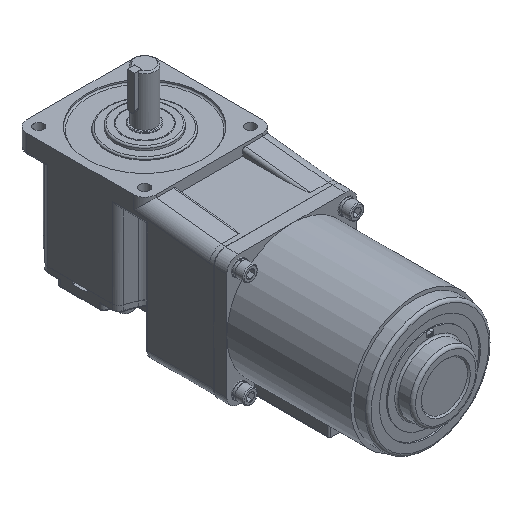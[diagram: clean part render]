
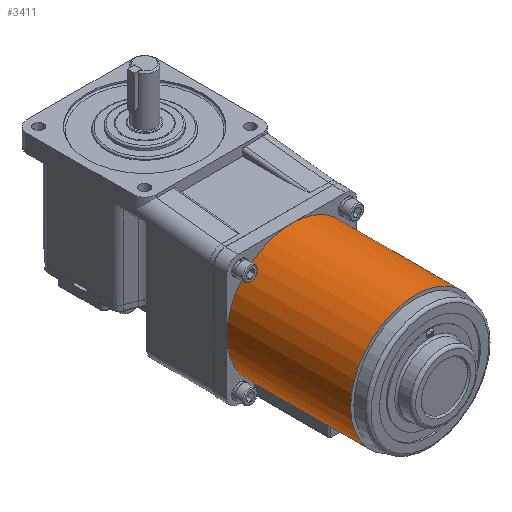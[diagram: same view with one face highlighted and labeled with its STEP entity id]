
A CAD part, isometric view. The second image highlights one B-rep face of the part: STEP entity #3411.
In plain terms, the highlighted cylindrical face has radius 45.2 mm (diameter 90.4 mm), a full revolution.
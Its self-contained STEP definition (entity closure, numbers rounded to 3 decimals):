
#670=LINE('',#14976,#1276);
#671=LINE('',#14993,#1277);
#1276=VECTOR('',#12082,1.);
#1277=VECTOR('',#12087,1.);
#1834=B_SPLINE_CURVE_WITH_KNOTS('',3,(#14978,#14979,#14980,#14981),
 .UNSPECIFIED.,.F.,.F.,(4,4),(0.,1.),.UNSPECIFIED.);
#1835=B_SPLINE_CURVE_WITH_KNOTS('',3,(#14986,#14987,#14988,#14989,#14990,
#14991),.UNSPECIFIED.,.F.,.F.,(4,2,4),(0.,0.5,1.),.UNSPECIFIED.);
#3156=CYLINDRICAL_SURFACE('',#10748,45.2);
#3411=ADVANCED_FACE('',(#4320,#4321),#3156,.T.);
#4320=FACE_BOUND('',#4664,.T.);
#4321=FACE_BOUND('',#4665,.T.);
#4664=EDGE_LOOP('',(#5601,#5602,#5603,#5604,#5605,#5606,#5607,#5608,#5609,
#5610));
#4665=EDGE_LOOP('',(#5611));
#5601=ORIENTED_EDGE('',*,*,#8785,.F.);
#5602=ORIENTED_EDGE('',*,*,#8786,.T.);
#5603=ORIENTED_EDGE('',*,*,#8787,.F.);
#5604=ORIENTED_EDGE('',*,*,#8788,.F.);
#5605=ORIENTED_EDGE('',*,*,#8789,.T.);
#5606=ORIENTED_EDGE('',*,*,#8790,.F.);
#5607=ORIENTED_EDGE('',*,*,#8770,.F.);
#5608=ORIENTED_EDGE('',*,*,#8769,.F.);
#5609=ORIENTED_EDGE('',*,*,#8767,.F.);
#5610=ORIENTED_EDGE('',*,*,#8776,.F.);
#5611=ORIENTED_EDGE('',*,*,#8782,.F.);
#7908=VERTEX_POINT('',#14911);
#7913=VERTEX_POINT('',#14923);
#7914=VERTEX_POINT('',#14927);
#7915=VERTEX_POINT('',#14933);
#7916=VERTEX_POINT('',#14937);
#7919=VERTEX_POINT('',#14946);
#7925=VERTEX_POINT('',#14967);
#7928=VERTEX_POINT('',#14977);
#7929=VERTEX_POINT('',#14982);
#7930=VERTEX_POINT('',#14985);
#7931=VERTEX_POINT('',#14992);
#8767=EDGE_CURVE('',#7913,#7914,#9958,.T.);
#8769=EDGE_CURVE('',#7914,#7915,#9959,.T.);
#8770=EDGE_CURVE('',#7915,#7916,#9960,.T.);
#8776=EDGE_CURVE('',#7919,#7913,#9963,.T.);
#8782=EDGE_CURVE('',#7925,#7925,#9969,.T.);
#8785=EDGE_CURVE('',#7928,#7919,#670,.T.);
#8786=EDGE_CURVE('',#7928,#7929,#1834,.T.);
#8787=EDGE_CURVE('',#7908,#7929,#9972,.T.);
#8788=EDGE_CURVE('',#7930,#7908,#9973,.T.);
#8789=EDGE_CURVE('',#7930,#7931,#1835,.T.);
#8790=EDGE_CURVE('',#7916,#7931,#671,.T.);
#9958=CIRCLE('',#10717,45.2);
#9959=CIRCLE('',#10719,45.2);
#9960=CIRCLE('',#10721,45.2);
#9963=CIRCLE('',#10725,45.2);
#9969=CIRCLE('',#10739,45.2);
#9972=CIRCLE('',#10746,45.2);
#9973=CIRCLE('',#10747,45.2);
#10717=AXIS2_PLACEMENT_3D('',#14930,#12020,#12021);
#10719=AXIS2_PLACEMENT_3D('',#14934,#12025,#12026);
#10721=AXIS2_PLACEMENT_3D('',#14936,#12029,#12030);
#10725=AXIS2_PLACEMENT_3D('',#14947,#12040,#12041);
#10739=AXIS2_PLACEMENT_3D('',#14966,#12068,#12069);
#10746=AXIS2_PLACEMENT_3D('',#14983,#12083,#12084);
#10747=AXIS2_PLACEMENT_3D('',#14984,#12085,#12086);
#10748=AXIS2_PLACEMENT_3D('',#14994,#12088,#12089);
#12020=DIRECTION('',(0.,1.,0.));
#12021=DIRECTION('',(-1.,0.,0.));
#12025=DIRECTION('',(0.,1.,0.));
#12026=DIRECTION('',(-1.,0.,0.));
#12029=DIRECTION('',(0.,1.,0.));
#12030=DIRECTION('',(-1.,0.,0.));
#12040=DIRECTION('',(0.,1.,0.));
#12041=DIRECTION('',(-1.,0.,0.));
#12068=DIRECTION('',(0.,-1.,0.));
#12069=DIRECTION('',(1.,0.,0.));
#12082=DIRECTION('',(0.,1.,0.));
#12083=DIRECTION('',(0.,1.,0.));
#12084=DIRECTION('',(0.,0.,-1.));
#12085=DIRECTION('',(0.,1.,0.));
#12086=DIRECTION('',(0.,0.,-1.));
#12087=DIRECTION('',(0.,-1.,0.));
#12088=DIRECTION('',(0.,-1.,0.));
#12089=DIRECTION('',(1.,0.,0.));
#14911=CARTESIAN_POINT('',(-0.2,-154.5,-97.4));
#14923=CARTESIAN_POINT('',(-45.4,-102.5,-52.2));
#14927=CARTESIAN_POINT('',(-0.2,-102.5,-7.));
#14930=CARTESIAN_POINT('',(-0.2,-102.5,-52.2));
#14933=CARTESIAN_POINT('',(45.,-102.5,-52.2));
#14934=CARTESIAN_POINT('',(-0.2,-102.5,-52.2));
#14936=CARTESIAN_POINT('',(-0.2,-102.5,-52.2));
#14937=CARTESIAN_POINT('',(26.5,-102.5,-88.671));
#14946=CARTESIAN_POINT('',(-26.5,-102.5,-88.961));
#14947=CARTESIAN_POINT('',(-0.2,-102.5,-52.2));
#14966=CARTESIAN_POINT('',(-0.2,-188.5,-52.2));
#14967=CARTESIAN_POINT('',(45.,-188.5,-52.2));
#14976=CARTESIAN_POINT('',(-26.5,-209.5,-88.961));
#14977=CARTESIAN_POINT('',(-26.5,-153.5,-88.961));
#14978=CARTESIAN_POINT('',(-26.5,-153.5,-88.961));
#14979=CARTESIAN_POINT('',(-26.499,-154.061,-88.961));
#14980=CARTESIAN_POINT('',(-26.011,-154.5,-89.311));
#14981=CARTESIAN_POINT('',(-25.5,-154.5,-89.656));
#14982=CARTESIAN_POINT('',(-25.5,-154.5,-89.656));
#14983=CARTESIAN_POINT('',(-0.2,-154.5,-52.2));
#14984=CARTESIAN_POINT('',(-0.2,-154.5,-52.2));
#14985=CARTESIAN_POINT('',(25.5,-154.5,-89.383));
#14986=CARTESIAN_POINT('',(25.5,-154.5,-89.383));
#14987=CARTESIAN_POINT('',(25.757,-154.5,-89.205));
#14988=CARTESIAN_POINT('',(25.951,-154.44,-89.068));
#14989=CARTESIAN_POINT('',(26.391,-154.043,-88.752));
#14990=CARTESIAN_POINT('',(26.5,-153.796,-88.671));
#14991=CARTESIAN_POINT('',(26.5,-153.5,-88.671));
#14992=CARTESIAN_POINT('',(26.5,-153.5,-88.671));
#14993=CARTESIAN_POINT('',(26.5,-209.5,-88.671));
#14994=CARTESIAN_POINT('',(-0.2,-209.5,-52.2));
